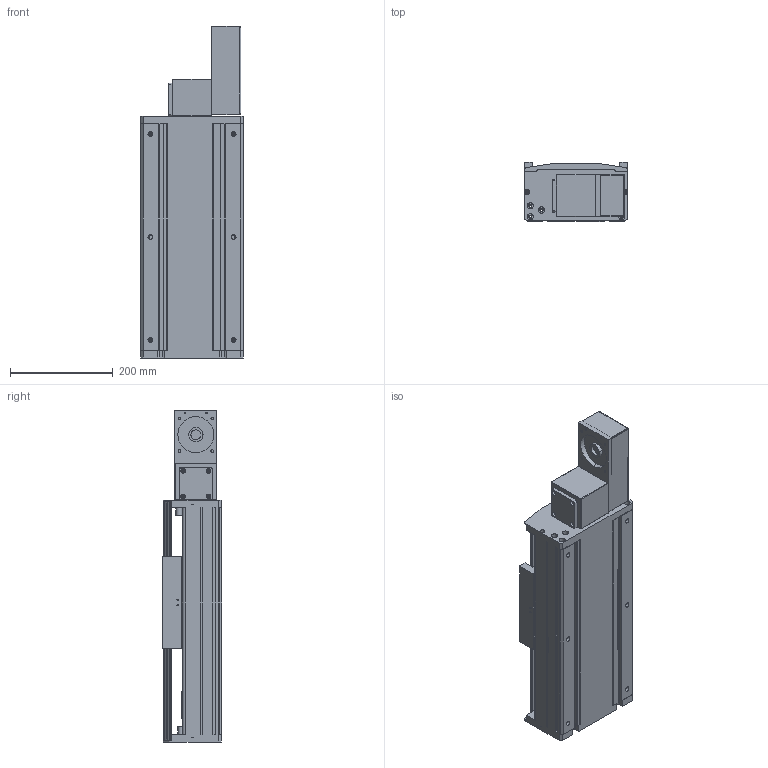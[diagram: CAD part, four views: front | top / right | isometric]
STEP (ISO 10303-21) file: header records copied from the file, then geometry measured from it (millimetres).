
FILE_DESCRIPTION(/* description */ (''),/* implementation_level */ '2;1');
FILE_NAME(/* name */ 'TKB200-FL-200_asm1.stp',/* time_stamp */ '2016-05-18T11:07:22+08:00',/* author */ (''),/* organization */ (''),/* preprocessor_version */ 'ST-DEVELOPER v15',/* originating_system */ 'SIEMENS PLM Software NX 8.5',/* authorisation */ '');
FILE_SCHEMA (('AUTOMOTIVE_DESIGN { 1 0 10303 214 3 1 1 1 }'));
Length unit declared in the file: millimetre
Products named in the file (3): 200-2; 200-1; TKB200-FL-200_asm1
Assembly tree (2 placements, depth 2):
  TKB200-FL-200_asm1
    200-1
    200-2
Bounding box: 200 x 115 x 645 mm (x, y, z)
Volume: 4224164.3 mm3; surface area: 1208624.2 mm2
Topology: 2 solids, 3 shells, 969 faces, 2684 edges, 1723 vertices
Faces by surface type: plane 457, cylinder 426, cone 70, bspline 16
Full cylindrical faces by diameter (mm): 2.5 x2, 3.3 x16, 4.3 x4, 4.5 x8, 5 x2, 6.6 x34, 6.8 x8, 8 x6, 9 x14, 10 x4, 11 x22, 12 x16, 14 x6, 36 x1, 42 x2, 75 x1
Entity records: 31888 total; most frequent: CARTESIAN_POINT 7793, DIRECTION 4989, ORIENTED_EDGE 4770, EDGE_CURVE 2385, AXIS2_PLACEMENT_3D 1808, VERTEX_POINT 1642, LINE 1373, VECTOR 1373
